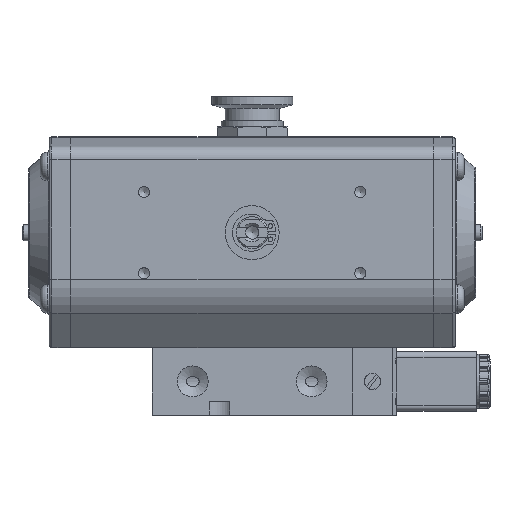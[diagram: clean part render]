
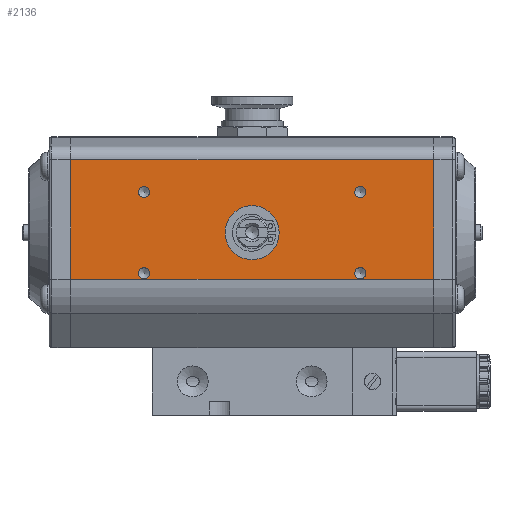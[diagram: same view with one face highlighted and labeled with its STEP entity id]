
A CAD part, top view. The second image highlights one B-rep face of the part: STEP entity #2136.
In plain terms, the highlighted planar face has unit normal (0, 0, 1) as drawn and (0, 1, 0) by its records, which use the part's own axes.
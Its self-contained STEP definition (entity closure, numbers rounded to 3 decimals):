
#2136 = ADVANCED_FACE( '', ( #5290, #5291, #5292, #5293, #5294, #5295 ), #5296, .T. );
#5290 = FACE_OUTER_BOUND( '', #10136, .T. );
#5291 = FACE_BOUND( '', #10137, .T. );
#5292 = FACE_BOUND( '', #10138, .T. );
#5293 = FACE_BOUND( '', #10139, .T. );
#5294 = FACE_BOUND( '', #10140, .T. );
#5295 = FACE_BOUND( '', #10141, .T. );
#5296 = PLANE( '', #10142 );
#10136 = EDGE_LOOP( '', ( #16287, #16288, #16289, #16290 ) );
#10137 = EDGE_LOOP( '', ( #16291 ) );
#10138 = EDGE_LOOP( '', ( #16292 ) );
#10139 = EDGE_LOOP( '', ( #16293 ) );
#10140 = EDGE_LOOP( '', ( #16294 ) );
#10141 = EDGE_LOOP( '', ( #16295 ) );
#10142 = AXIS2_PLACEMENT_3D( '', #16296, #16297, #16298 );
#16287 = ORIENTED_EDGE( '', *, *, #30426, .F. );
#16288 = ORIENTED_EDGE( '', *, *, #30427, .T. );
#16289 = ORIENTED_EDGE( '', *, *, #30428, .F. );
#16290 = ORIENTED_EDGE( '', *, *, #30311, .T. );
#16291 = ORIENTED_EDGE( '', *, *, #30429, .T. );
#16292 = ORIENTED_EDGE( '', *, *, #30430, .T. );
#16293 = ORIENTED_EDGE( '', *, *, #30431, .T. );
#16294 = ORIENTED_EDGE( '', *, *, #30432, .T. );
#16295 = ORIENTED_EDGE( '', *, *, #30433, .T. );
#16296 = CARTESIAN_POINT( '', ( -31.5, 35.5, 0. ) );
#16297 = DIRECTION( '', ( 0., 1., 0. ) );
#16298 = DIRECTION( '', ( 1., 0., 0. ) );
#30311 = EDGE_CURVE( '', #35304, #35302, #35305, .T. );
#30426 = EDGE_CURVE( '', #35510, #35302, #35511, .T. );
#30427 = EDGE_CURVE( '', #35510, #35512, #35513, .T. );
#30428 = EDGE_CURVE( '', #35304, #35512, #35514, .T. );
#30429 = EDGE_CURVE( '', #35515, #35515, #35516, .T. );
#30430 = EDGE_CURVE( '', #35517, #35517, #35518, .T. );
#30431 = EDGE_CURVE( '', #35519, #35519, #35520, .T. );
#30432 = EDGE_CURVE( '', #35521, #35521, #35522, .T. );
#30433 = EDGE_CURVE( '', #35523, #35523, #35524, .T. );
#35302 = VERTEX_POINT( '', #42667 );
#35304 = VERTEX_POINT( '', #42669 );
#35305 = LINE( '', #42670, #42671 );
#35510 = VERTEX_POINT( '', #43087 );
#35511 = LINE( '', #43088, #43089 );
#35512 = VERTEX_POINT( '', #43090 );
#35513 = LINE( '', #43091, #43092 );
#35514 = LINE( '', #43093, #43094 );
#35515 = VERTEX_POINT( '', #43095 );
#35516 = CIRCLE( '', #43096, 2.067 );
#35517 = VERTEX_POINT( '', #43097 );
#35518 = CIRCLE( '', #43098, 2.067 );
#35519 = VERTEX_POINT( '', #43099 );
#35520 = CIRCLE( '', #43100, 2.067 );
#35521 = VERTEX_POINT( '', #43101 );
#35522 = CIRCLE( '', #43102, 2.067 );
#35523 = VERTEX_POINT( '', #43103 );
#35524 = CIRCLE( '', #43104, 6.1 );
#42667 = CARTESIAN_POINT( '', ( -27.063, 35.5, 0. ) );
#42669 = CARTESIAN_POINT( '', ( 17.272, 35.5, 0. ) );
#42670 = CARTESIAN_POINT( '', ( 17.272, 35.5, 0. ) );
#42671 = VECTOR( '', #55560, 1000. );
#43087 = CARTESIAN_POINT( '', ( -27.063, 35.5, 134.3 ) );
#43088 = CARTESIAN_POINT( '', ( -27.063, 35.5, 134.3 ) );
#43089 = VECTOR( '', #55698, 1000. );
#43090 = CARTESIAN_POINT( '', ( 17.272, 35.5, 134.3 ) );
#43091 = CARTESIAN_POINT( '', ( -27.063, 35.5, 134.3 ) );
#43092 = VECTOR( '', #55699, 1000. );
#43093 = CARTESIAN_POINT( '', ( 17.272, 35.5, 0. ) );
#43094 = VECTOR( '', #55700, 1000. );
#43095 = CARTESIAN_POINT( '', ( -12.933, 35.5, 107.15 ) );
#43096 = AXIS2_PLACEMENT_3D( '', #55701, #55702, #55703 );
#43097 = CARTESIAN_POINT( '', ( -12.933, 35.5, 27.15 ) );
#43098 = AXIS2_PLACEMENT_3D( '', #55704, #55705, #55706 );
#43099 = CARTESIAN_POINT( '', ( 17.067, 35.5, 27.15 ) );
#43100 = AXIS2_PLACEMENT_3D( '', #55707, #55708, #55709 );
#43101 = CARTESIAN_POINT( '', ( 17.067, 35.5, 107.15 ) );
#43102 = AXIS2_PLACEMENT_3D( '', #55710, #55711, #55712 );
#43103 = CARTESIAN_POINT( '', ( 6.1, 35.5, 67.15 ) );
#43104 = AXIS2_PLACEMENT_3D( '', #55713, #55714, #55715 );
#55560 = DIRECTION( '', ( -1., 0., 0. ) );
#55698 = DIRECTION( '', ( 0., 0., -1. ) );
#55699 = DIRECTION( '', ( 1., 0., 0. ) );
#55700 = DIRECTION( '', ( 0., 0., 1. ) );
#55701 = CARTESIAN_POINT( '', ( -15., 35.5, 107.15 ) );
#55702 = DIRECTION( '', ( 0., -1., 0. ) );
#55703 = DIRECTION( '', ( 1., 0., 0. ) );
#55704 = CARTESIAN_POINT( '', ( -15., 35.5, 27.15 ) );
#55705 = DIRECTION( '', ( 0., -1., 0. ) );
#55706 = DIRECTION( '', ( 1., 0., 0. ) );
#55707 = CARTESIAN_POINT( '', ( 15., 35.5, 27.15 ) );
#55708 = DIRECTION( '', ( 0., -1., 0. ) );
#55709 = DIRECTION( '', ( 1., 0., 0. ) );
#55710 = CARTESIAN_POINT( '', ( 15., 35.5, 107.15 ) );
#55711 = DIRECTION( '', ( 0., -1., 0. ) );
#55712 = DIRECTION( '', ( 1., 0., 0. ) );
#55713 = CARTESIAN_POINT( '', ( 0., 35.5, 67.15 ) );
#55714 = DIRECTION( '', ( 0., -1., 0. ) );
#55715 = DIRECTION( '', ( 1., 0., 0. ) );
